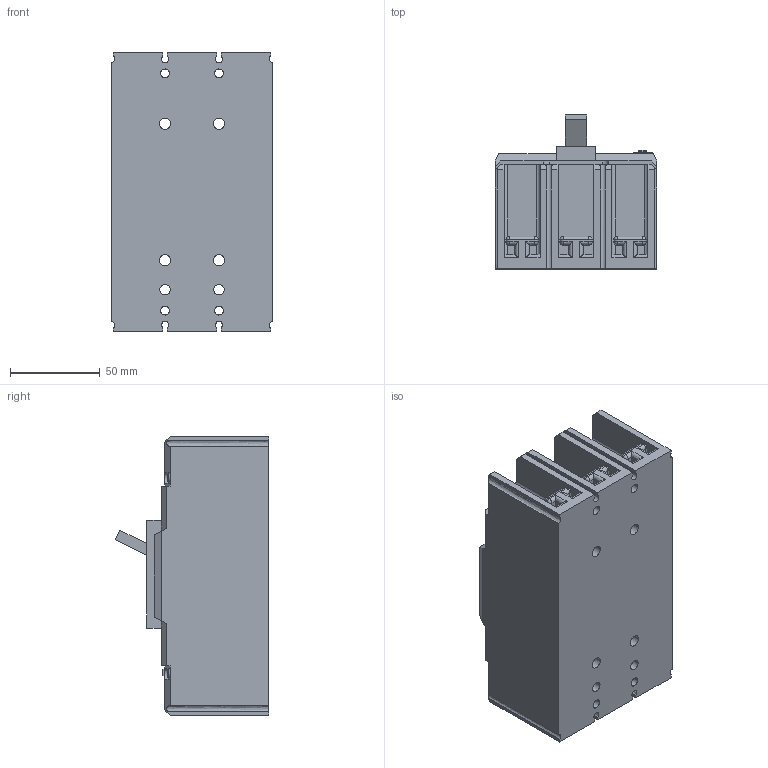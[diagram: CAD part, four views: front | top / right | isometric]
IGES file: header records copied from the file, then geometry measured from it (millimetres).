
Start section:  PTC IGES file: 7-metasol-elcb-125af-3p.igs
Global section: file name: 7-metasol-elcb-125af-3p.igs; native system: Pro/ENGINEER by Parametric Technology Corporation; preprocessor: 2010280; author: mgkimb; organization: Unknown; date: 20131029.143027; units: millimetre
Bounding box: 90 x 85.7 x 155 mm (x, y, z)
Surface area: 90456.4 mm2 (no closed solid volume)
Topology: 0 solids, 0 shells, 823 faces, 4288 edges, 4288 vertices
Faces by surface type: bspline 534, revolution 289
